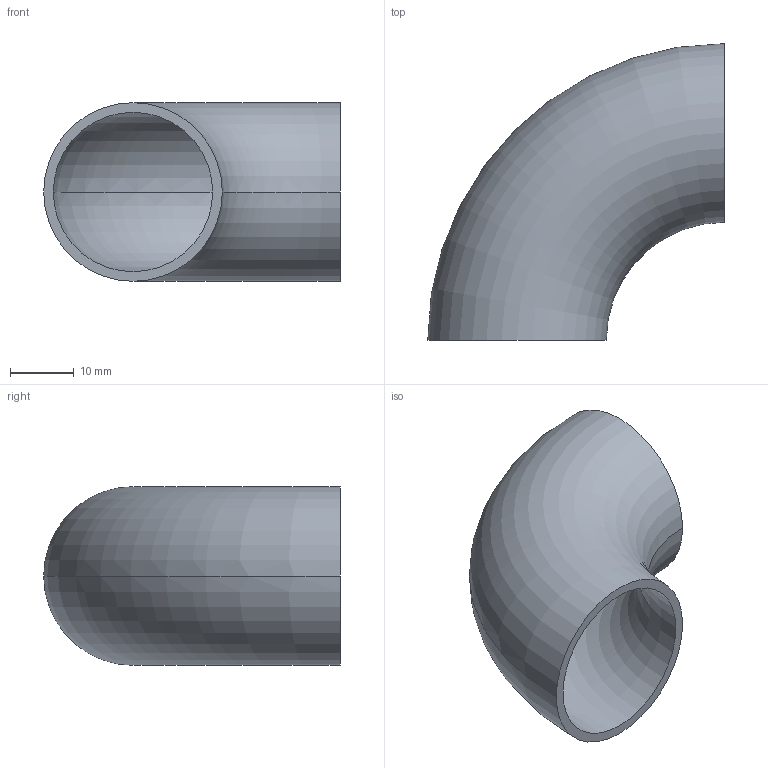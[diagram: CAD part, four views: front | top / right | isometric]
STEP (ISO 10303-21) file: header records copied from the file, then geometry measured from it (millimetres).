
FILE_DESCRIPTION (( 'STEP AP203' ), '1' );
FILE_NAME ('OT212-25-28x1_5_OSTP.step', '2020-12-16T01:38:35', ( '' ), ( '' ), 'SwSTEP 2.0', 'SolidWorks 2014', '' );
FILE_SCHEMA (( 'CONFIG_CONTROL_DESIGN' ));
Length unit declared in the file: millimetre
Products named in the file (1): OT212-25-28x1_5_OSTP
Bounding box: 46.5 x 46.5 x 28 mm (x, y, z)
Volume: 6375.1 mm3; surface area: 8750 mm2
Topology: 1 solids, 1 shells, 6 faces, 12 edges, 8 vertices
Faces by surface type: torus 4, plane 2
Entity records: 249 total; most frequent: DIRECTION 38, CARTESIAN_POINT 27, ORIENTED_EDGE 24, AXIS2_PLACEMENT_3D 19, CIRCLE 12, EDGE_CURVE 12, PERSON_AND_ORGANIZATION 8, VERTEX_POINT 8
